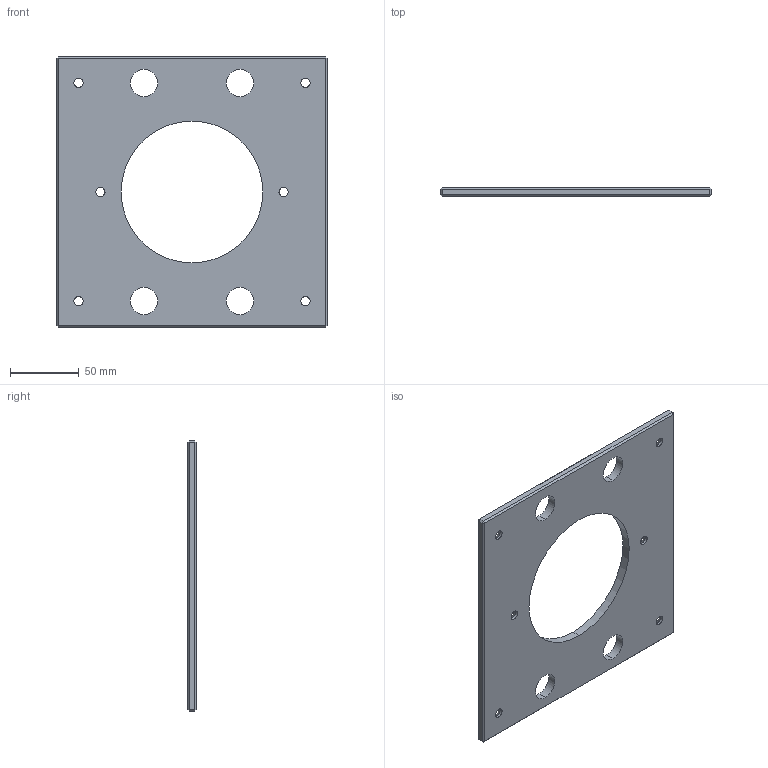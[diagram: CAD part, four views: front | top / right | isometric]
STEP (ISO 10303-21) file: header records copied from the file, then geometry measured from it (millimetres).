
FILE_DESCRIPTION (( 'STEP AP214' ), '1' );
FILE_NAME ('ME-0619-CH-0808.STEP', '2020-02-10T08:48:41', ( '' ), ( '' ), 'SwSTEP 2.0', 'SolidWorks 2018', '' );
FILE_SCHEMA (( 'AUTOMOTIVE_DESIGN' ));
Length unit declared in the file: inch
Products named in the file (1): ME-0619-CH-0808
Bounding box: 196.85 x 6.35 x 196.85 mm (x, y, z)
Volume: 181104.4 mm3; surface area: 65984.7 mm2
Topology: 1 solids, 1 shells, 60 faces, 138 edges, 80 vertices
Faces by surface type: plane 26, cylinder 22, cone 12
Entity records: 1754 total; most frequent: DIRECTION 316, CARTESIAN_POINT 279, ORIENTED_EDGE 276, EDGE_CURVE 138, AXIS2_PLACEMENT_3D 117, LINE 82, EDGE_LOOP 82, VECTOR 82
